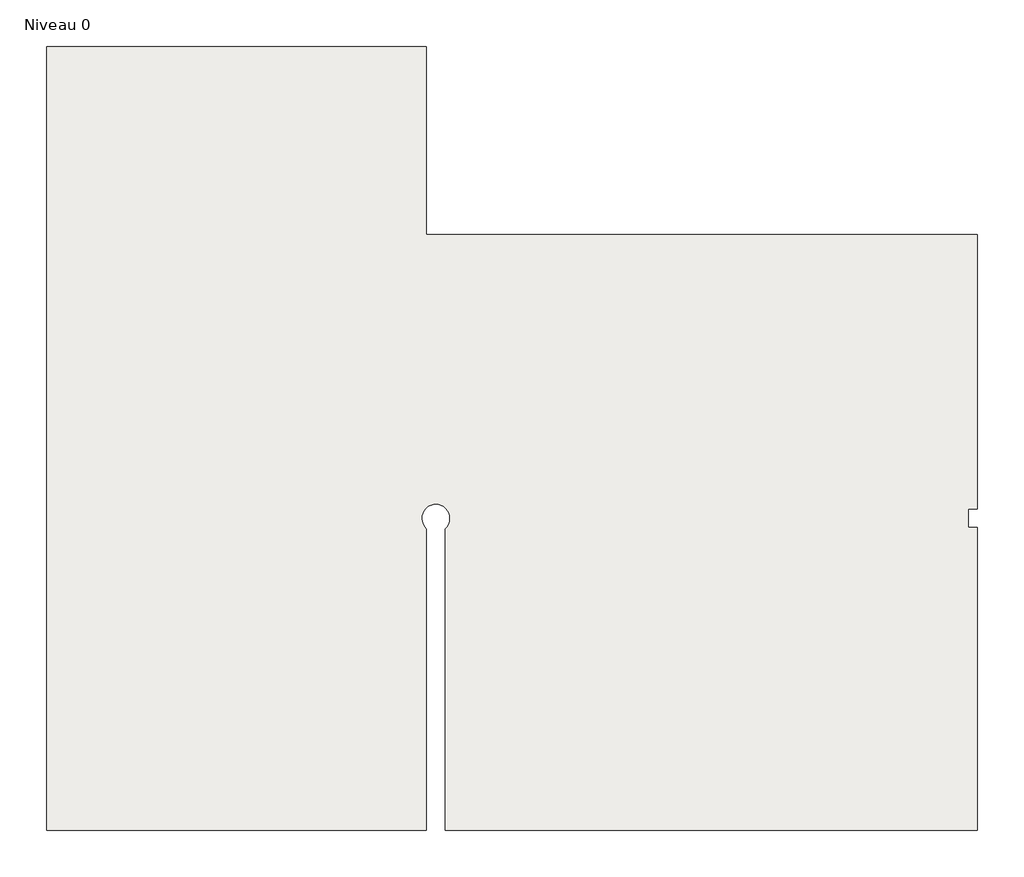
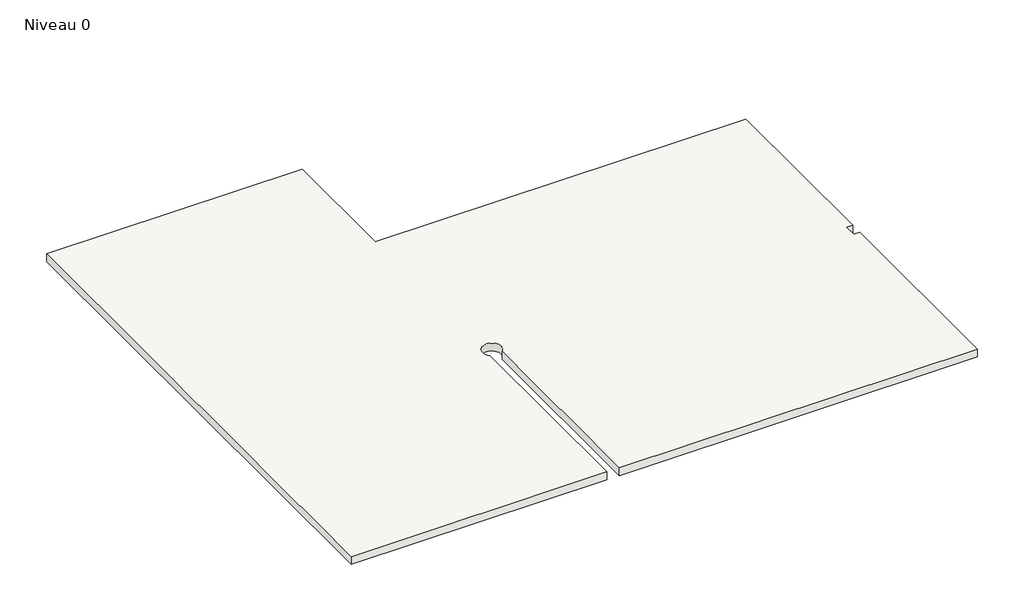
# One storey: 1 slab.
"""IFC4 building model written with IfcOpenShell, lengths in millimetres."""

from ifc_helpers import new_model, si_unit, point, frame, frame_2d, origin, place, context, project, spatial, polyline, circle_curve, trimmed, segment, composite_curve, outline, extrude, element, save

model = new_model("IFC4")

# Units and contexts
model_context = context("Model", 3, world=origin())
ifc_project = project(units=[si_unit("LENGTHUNIT", "METRE", prefix="MILLI")], contexts=[model_context])

# Site, building, storey
site = spatial("IfcSite", under=ifc_project)
building = spatial("IfcBuilding", under=site)
storey = spatial("IfcBuildingStorey", under=building, Name="Niveau 0", Elevation=0.0)

# Slab
placement = place(None, origin())
element("IfcSlab", 1, ObjectType="LMO dalle BA 130", at=placement, inside=storey, context=model_context, shape_type="SweptSolid", body=[
    extrude(outline(composite_curve([segment(polyline([(-8545.2732558, -3545.2827088), (-4505.2732558, -3545.2827088), (-4505.2732558, -5545.2827088), (1354.7267442, -5545.2827088), (1354.7267442, -8465.2827088), (1254.7267442, -8465.2827088), (1254.7267442, -8665.2827088), (1354.7267442, -8665.2827088), (1354.7267442, -11885.2827088), (-4305.2732558, -11885.2827088), (-4305.2732558, -8677.0861077)]), True, "CONTINUOUS"), segment(trimmed(circle_curve(frame_2d((-4405.2732558, -8565.2827088)), 150.0), [point((-4305.2732558, -8677.0861077))], [point((-4505.2732558, -8677.0861077))], True, "CARTESIAN"), True, "CONTINUOUS"), segment(polyline([(-4505.2732558, -8677.0861077), (-4505.2732558, -11885.2827088), (-8545.2732558, -11885.2827088), (-8545.2732558, -3545.2827088)]), True, "CONTINUOUS")], self_intersect=False)), frame((0.0, 0.0, -130.0), z_axis=(0.0, 0.0, 1.0), x_axis=(1.0, 0.0, 0.0)), (0.0, 0.0, 1.0), 130.0),
])

save(model, "model.ifc")
